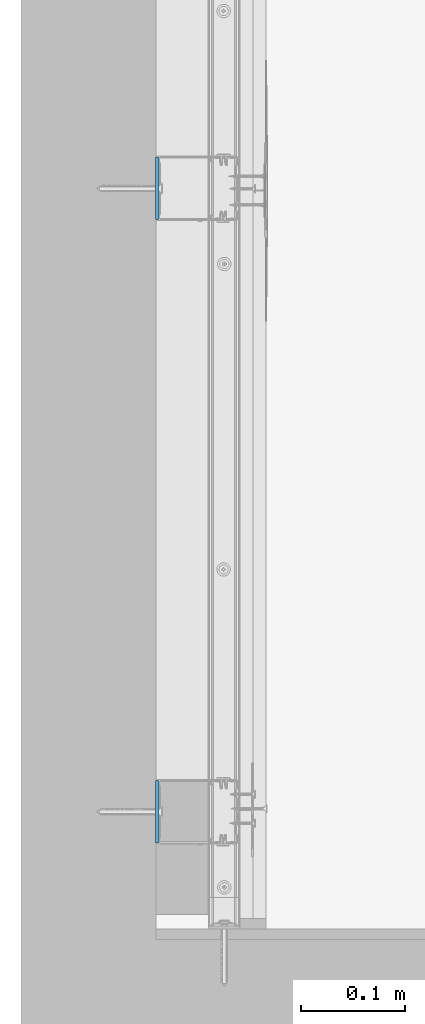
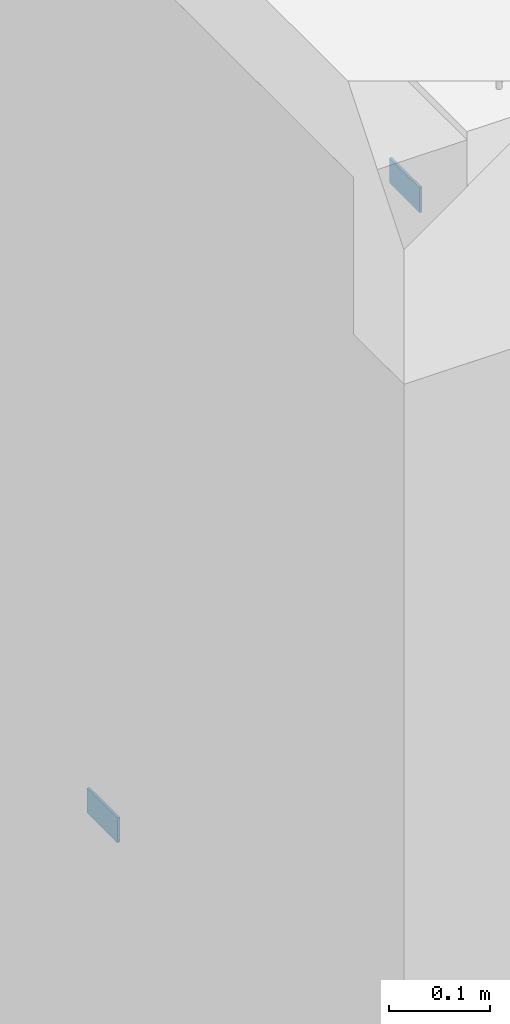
# One storey, part 28 of 61: 2 walls.
"""IFC2X3 building model written with IfcOpenShell, lengths in millimetres."""

from ifc_helpers import new_model, si_unit, frame, origin_with_axes, place, context, subcontext, project, spatial, faceted_brep, material, type_object, element, save


model = new_model("IFC2X3")

# Units and contexts
model_context = context("Model", 3, world=origin_with_axes())
body_context = subcontext(model_context, "Body", "Model", "MODEL_VIEW")
ifc_project = project(units=[si_unit("LENGTHUNIT", "METRE", prefix="MILLI"), si_unit("AREAUNIT", "SQUARE_METRE"), si_unit("VOLUMEUNIT", "CUBIC_METRE")], contexts=[model_context])

# Site, building, storey
site_placement = place(None, frame((2152.1410261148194, -2015.0250894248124, 57.61556563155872), z_axis=(0.0, 0.0, 1.0), x_axis=(-1.1102230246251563e-16, 1.0, 0.0)))
site = spatial("IfcSite", under=ifc_project, at=site_placement, Name="Default Site", CompositionType="ELEMENT")
building_placement = place(site_placement, origin_with_axes())
building = spatial("IfcBuilding", under=site, at=building_placement, Name="Default Building", CompositionType="ELEMENT")
storey_placement = place(building_placement, origin_with_axes())
storey = spatial("IfcBuildingStorey", under=building, at=storey_placement, Name="Default Building Storey", CompositionType="ELEMENT", Elevation=57.61556563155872)

# Walls
ifc_material = material(Name="Default")
wall_type = type_object("IfcWallType", Name="Taśma uszczelniająca piankowa RIGIPS szer.30mm#1", PredefinedType="NOTDEFINED")
for number, where, z_axis, x_axis, name in (
    (1, (2208.0370864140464, 2019.7786110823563, 2405.887262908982), (0.0, 0.0, 1.0), (1.0, 0.0, 0.0), "Taśma uszczelniająca piankowa RIGIPS szer.30mm"),
    (2, (2808.0370864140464, 2019.7786110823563, 1278.84966049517), (0.0, 0.0, 1.0), (1.0, 0.0, 0.0), "Taśma uszczelniająca piankowa RIGIPS szer.30mm"),
):
    element("IfcWall", number, at=place(storey_placement, frame(where, z_axis=z_axis, x_axis=x_axis)), inside=storey, type_object=wall_type, material=ifc_material, Name=name, context=body_context, shape_type="Brep", body=[
        faceted_brep([(59.99999865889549, 0.0, 4.511946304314e-12), (0.0, 0.0, 0.0), (1.0828671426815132e-12, -2.2379254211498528e-11, -29.999999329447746), (59.99999865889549, -2.2379254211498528e-11, -29.999999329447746), (0.0, 3.000000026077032, 0.0), (1.0828671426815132e-12, 3.000000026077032, -29.999999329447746), (59.99999865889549, 3.000000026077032, 0.0), (59.99999865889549, 3.000000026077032, -29.999999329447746)], [[[0, 1, 2, 3]], [[1, 4, 5, 2]], [[4, 6, 7, 5]], [[6, 0, 3, 7]], [[7, 3, 2, 5]], [[0, 6, 4, 1]]]),
    ])

save(model, "model.ifc")
